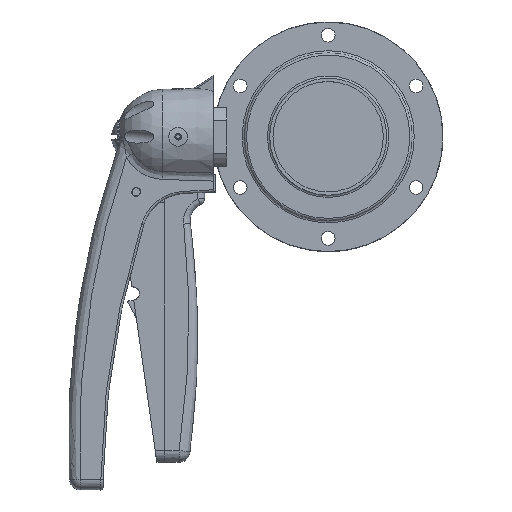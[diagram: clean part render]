
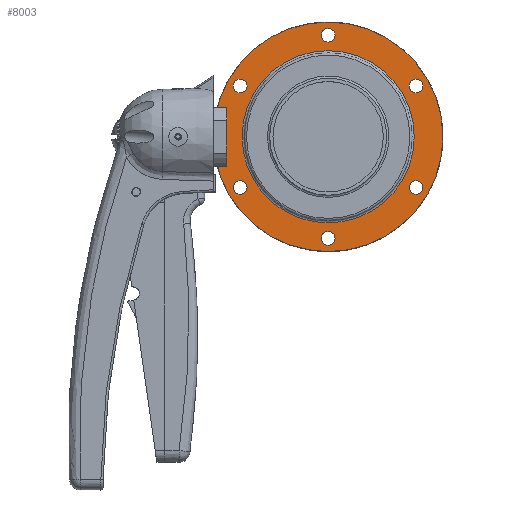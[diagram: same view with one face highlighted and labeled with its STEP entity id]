
A CAD part, top view. The second image highlights one B-rep face of the part: STEP entity #8003.
In plain terms, the highlighted planar face has unit normal (0, 0, 1) as drawn and (1, 0, 0) by its records, which use the part's own axes.
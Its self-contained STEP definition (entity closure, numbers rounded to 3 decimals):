
#1994=FACE_BOUND('',#2886,.T.);
#1995=FACE_BOUND('',#2887,.T.);
#1996=FACE_BOUND('',#2888,.T.);
#1997=FACE_BOUND('',#2889,.T.);
#1998=FACE_BOUND('',#2890,.T.);
#1999=FACE_BOUND('',#2891,.T.);
#2000=FACE_BOUND('',#2892,.T.);
#2422=FACE_OUTER_BOUND('',#2885,.T.);
#2885=EDGE_LOOP('',(#7332,#7333));
#2886=EDGE_LOOP('',(#7334));
#2887=EDGE_LOOP('',(#7335));
#2888=EDGE_LOOP('',(#7336));
#2889=EDGE_LOOP('',(#7337));
#2890=EDGE_LOOP('',(#7338));
#2891=EDGE_LOOP('',(#7339));
#2892=EDGE_LOOP('',(#7340,#7341));
#3186=CIRCLE('',#8748,52.);
#3187=CIRCLE('',#8749,52.);
#3190=CIRCLE('',#8754,3.1);
#3191=CIRCLE('',#8756,3.1);
#3192=CIRCLE('',#8758,3.1);
#3193=CIRCLE('',#8760,3.1);
#3194=CIRCLE('',#8762,3.1);
#3195=CIRCLE('',#8764,3.1);
#3196=CIRCLE('',#8767,39.);
#3197=CIRCLE('',#8768,39.);
#3927=VERTEX_POINT('',#22745);
#3928=VERTEX_POINT('',#22746);
#3932=VERTEX_POINT('',#22777);
#3933=VERTEX_POINT('',#22781);
#3934=VERTEX_POINT('',#22785);
#3935=VERTEX_POINT('',#22789);
#3936=VERTEX_POINT('',#22793);
#3937=VERTEX_POINT('',#22797);
#3938=VERTEX_POINT('',#22802);
#3939=VERTEX_POINT('',#22803);
#5058=EDGE_CURVE('',#3927,#3928,#3186,.T.);
#5059=EDGE_CURVE('',#3928,#3927,#3187,.T.);
#5066=EDGE_CURVE('',#3932,#3932,#3190,.T.);
#5068=EDGE_CURVE('',#3933,#3933,#3191,.T.);
#5070=EDGE_CURVE('',#3934,#3934,#3192,.T.);
#5072=EDGE_CURVE('',#3935,#3935,#3193,.T.);
#5074=EDGE_CURVE('',#3936,#3936,#3194,.T.);
#5076=EDGE_CURVE('',#3937,#3937,#3195,.T.);
#5077=EDGE_CURVE('',#3938,#3939,#3196,.T.);
#5078=EDGE_CURVE('',#3939,#3938,#3197,.T.);
#7332=ORIENTED_EDGE('',*,*,#5058,.T.);
#7333=ORIENTED_EDGE('',*,*,#5059,.T.);
#7334=ORIENTED_EDGE('',*,*,#5066,.T.);
#7335=ORIENTED_EDGE('',*,*,#5068,.T.);
#7336=ORIENTED_EDGE('',*,*,#5070,.T.);
#7337=ORIENTED_EDGE('',*,*,#5072,.T.);
#7338=ORIENTED_EDGE('',*,*,#5074,.T.);
#7339=ORIENTED_EDGE('',*,*,#5076,.T.);
#7340=ORIENTED_EDGE('',*,*,#5077,.F.);
#7341=ORIENTED_EDGE('',*,*,#5078,.F.);
#7581=PLANE('',#8766);
#8003=ADVANCED_FACE('',(#2422,#1994,#1995,#1996,#1997,#1998,#1999,#2000),
#7581,.T.);
#8748=AXIS2_PLACEMENT_3D('',#22747,#10636,#10637);
#8749=AXIS2_PLACEMENT_3D('',#22748,#10638,#10639);
#8754=AXIS2_PLACEMENT_3D('',#22779,#10650,#10651);
#8756=AXIS2_PLACEMENT_3D('',#22783,#10655,#10656);
#8758=AXIS2_PLACEMENT_3D('',#22787,#10660,#10661);
#8760=AXIS2_PLACEMENT_3D('',#22791,#10665,#10666);
#8762=AXIS2_PLACEMENT_3D('',#22795,#10670,#10671);
#8764=AXIS2_PLACEMENT_3D('',#22799,#10675,#10676);
#8766=AXIS2_PLACEMENT_3D('',#22801,#10679,#10680);
#8767=AXIS2_PLACEMENT_3D('',#22804,#10681,#10682);
#8768=AXIS2_PLACEMENT_3D('',#22805,#10683,#10684);
#10636=DIRECTION('center_axis',(1.,0.,0.));
#10637=DIRECTION('ref_axis',(0.,0.,-1.));
#10638=DIRECTION('center_axis',(1.,0.,0.));
#10639=DIRECTION('ref_axis',(0.,0.,-1.));
#10650=DIRECTION('center_axis',(-1.,0.,0.));
#10651=DIRECTION('ref_axis',(0.,0.,1.));
#10655=DIRECTION('center_axis',(-1.,0.,0.));
#10656=DIRECTION('ref_axis',(0.,0.,1.));
#10660=DIRECTION('center_axis',(-1.,0.,0.));
#10661=DIRECTION('ref_axis',(0.,0.,1.));
#10665=DIRECTION('center_axis',(-1.,0.,0.));
#10666=DIRECTION('ref_axis',(0.,0.,1.));
#10670=DIRECTION('center_axis',(-1.,0.,0.));
#10671=DIRECTION('ref_axis',(0.,0.,1.));
#10675=DIRECTION('center_axis',(-1.,0.,0.));
#10676=DIRECTION('ref_axis',(0.,0.,1.));
#10679=DIRECTION('center_axis',(1.,0.,0.));
#10680=DIRECTION('ref_axis',(0.,0.,-1.));
#10681=DIRECTION('center_axis',(1.,0.,0.));
#10682=DIRECTION('ref_axis',(0.,0.,-1.));
#10683=DIRECTION('center_axis',(1.,0.,0.));
#10684=DIRECTION('ref_axis',(0.,0.,-1.));
#22745=CARTESIAN_POINT('',(10.,52.,0.));
#22746=CARTESIAN_POINT('',(10.,-52.,0.));
#22747=CARTESIAN_POINT('Origin',(10.,0.,0.));
#22748=CARTESIAN_POINT('Origin',(10.,0.,0.));
#22777=CARTESIAN_POINT('',(10.,-39.837,19.9));
#22779=CARTESIAN_POINT('Origin',(10.,-39.837,23.));
#22781=CARTESIAN_POINT('',(10.,0.,-49.1));
#22783=CARTESIAN_POINT('Origin',(10.,0.,-46.));
#22785=CARTESIAN_POINT('',(10.,0.,42.9));
#22787=CARTESIAN_POINT('Origin',(10.,0.,46.));
#22789=CARTESIAN_POINT('',(10.,39.837,-26.1));
#22791=CARTESIAN_POINT('Origin',(10.,39.837,-23.));
#22793=CARTESIAN_POINT('',(10.,-39.837,-26.1));
#22795=CARTESIAN_POINT('Origin',(10.,-39.837,-23.));
#22797=CARTESIAN_POINT('',(10.,39.837,19.9));
#22799=CARTESIAN_POINT('Origin',(10.,39.837,23.));
#22801=CARTESIAN_POINT('Origin',(10.,39.,0.));
#22802=CARTESIAN_POINT('',(10.,39.,0.));
#22803=CARTESIAN_POINT('',(10.,0.,39.));
#22804=CARTESIAN_POINT('Origin',(10.,0.,0.));
#22805=CARTESIAN_POINT('Origin',(10.,0.,0.));
